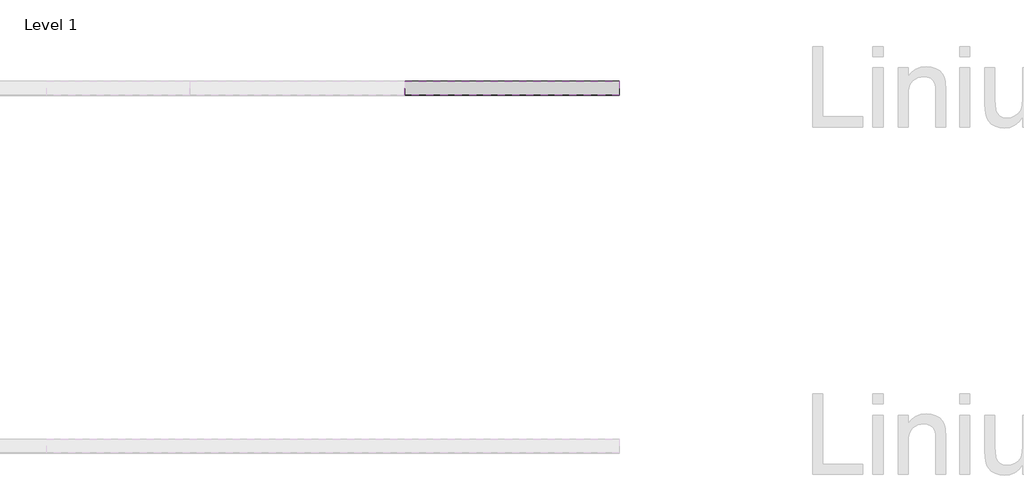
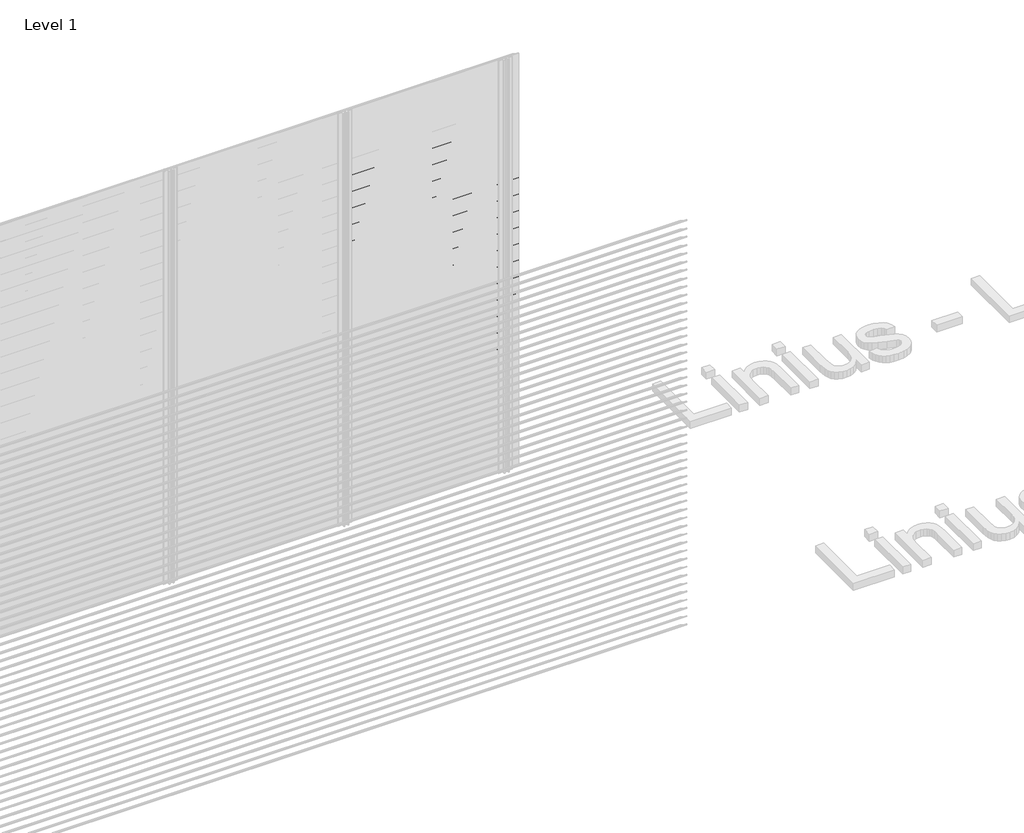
# One storey, part 10 of 153: 43 proxies.
"""IFC4 building model written with IfcOpenShell, lengths in millimetres."""

from ifc_helpers import new_model, si_unit, frame, origin, place, context, project, spatial, polyline, outline, extrude, element, save

model = new_model("IFC4")

# Units and contexts
model_context = context("Model", 3, world=origin())
ifc_project = project(units=[si_unit("LENGTHUNIT", "METRE", prefix="MILLI")], contexts=[model_context])

# Site, building, storey
site = spatial("IfcSite", under=ifc_project)
building = spatial("IfcBuilding", under=site)
storey = spatial("IfcBuildingStorey", under=building, Name="Level 1", Elevation=0.0)

# Proxies
placement = place(None, origin())
element("IfcBuildingElementProxy", 1, Name="Wall Sweeps", at=placement, inside=storey, context=model_context, shape_type="SweptSolid", body=[
    extrude(outline(polyline([(7065.0270068, 2526.0), (7065.0270068, 2520.0), (7063.7770068, 2520.7216933), (7063.7770068, 2525.2538091), (6987.0270068, 2573.9915103), (6987.0270068, 2580.0), (6988.2770068, 2580.0), (6988.2770068, 2574.7377012), (7065.0270068, 2526.0)])), frame((5266.6208095, 0.0, 0.0), z_axis=(1.0, 0.0, 0.0), x_axis=(0.0, 1.0, 0.0)), (0.0, 0.0, 1.0), 1200.0000002),
])
element("IfcBuildingElementProxy", 2, Name="Wall Sweeps", at=placement, inside=storey, context=model_context, shape_type="SweptSolid", body=[
    extrude(outline(polyline([(7065.0270068, 2466.0), (7065.0270068, 2460.0), (7063.7770068, 2460.7216933), (7063.7770068, 2465.2538091), (6987.0270068, 2513.9915103), (6987.0270068, 2520.0), (6988.2770068, 2520.0), (6988.2770068, 2514.7377012), (7065.0270068, 2466.0)])), frame((5266.6208095, 0.0, 0.0), z_axis=(1.0, 0.0, 0.0), x_axis=(0.0, 1.0, 0.0)), (0.0, 0.0, 1.0), 1200.0000002),
])
element("IfcBuildingElementProxy", 3, Name="Wall Sweeps", at=placement, inside=storey, context=model_context, shape_type="SweptSolid", body=[
    extrude(outline(polyline([(7065.0270068, 2406.0), (7065.0270068, 2400.0), (7063.7770068, 2400.7216933), (7063.7770068, 2405.2538091), (6987.0270068, 2453.9915103), (6987.0270068, 2460.0), (6988.2770068, 2460.0), (6988.2770068, 2454.7377012), (7065.0270068, 2406.0)])), frame((5266.6208095, 0.0, 0.0), z_axis=(1.0, 0.0, 0.0), x_axis=(0.0, 1.0, 0.0)), (0.0, 0.0, 1.0), 1200.0000002),
])
element("IfcBuildingElementProxy", 4, Name="Wall Sweeps", at=placement, inside=storey, context=model_context, shape_type="SweptSolid", body=[
    extrude(outline(polyline([(7065.0270068, 2346.0), (7065.0270068, 2340.0), (7063.7770068, 2340.7216933), (7063.7770068, 2345.2538091), (6987.0270068, 2393.9915103), (6987.0270068, 2400.0), (6988.2770068, 2400.0), (6988.2770068, 2394.7377012), (7065.0270068, 2346.0)])), frame((5266.6208095, 0.0, 0.0), z_axis=(1.0, 0.0, 0.0), x_axis=(0.0, 1.0, 0.0)), (0.0, 0.0, 1.0), 1200.0000002),
])
element("IfcBuildingElementProxy", 5, Name="Wall Sweeps", at=placement, inside=storey, context=model_context, shape_type="SweptSolid", body=[
    extrude(outline(polyline([(7065.0270068, 2286.0), (7065.0270068, 2280.0), (7063.7770068, 2280.7216933), (7063.7770068, 2285.2538091), (6987.0270068, 2333.9915103), (6987.0270068, 2340.0), (6988.2770068, 2340.0), (6988.2770068, 2334.7377012), (7065.0270068, 2286.0)])), frame((5266.6208095, 0.0, 0.0), z_axis=(1.0, 0.0, 0.0), x_axis=(0.0, 1.0, 0.0)), (0.0, 0.0, 1.0), 1200.0000002),
])
element("IfcBuildingElementProxy", 6, Name="Wall Sweeps", at=placement, inside=storey, context=model_context, shape_type="SweptSolid", body=[
    extrude(outline(polyline([(7065.0270068, 2226.0), (7065.0270068, 2220.0), (7063.7770068, 2220.7216933), (7063.7770068, 2225.2538091), (6987.0270068, 2273.9915103), (6987.0270068, 2280.0), (6988.2770068, 2280.0), (6988.2770068, 2274.7377012), (7065.0270068, 2226.0)])), frame((5266.6208095, 0.0, 0.0), z_axis=(1.0, 0.0, 0.0), x_axis=(0.0, 1.0, 0.0)), (0.0, 0.0, 1.0), 1200.0000002),
])
element("IfcBuildingElementProxy", 7, Name="Wall Sweeps", at=placement, inside=storey, context=model_context, shape_type="SweptSolid", body=[
    extrude(outline(polyline([(7065.0270068, 2166.0), (7065.0270068, 2160.0), (7063.7770068, 2160.7216933), (7063.7770068, 2165.2538091), (6987.0270068, 2213.9915103), (6987.0270068, 2220.0), (6988.2770068, 2220.0), (6988.2770068, 2214.7377012), (7065.0270068, 2166.0)])), frame((5266.6208095, 0.0, 0.0), z_axis=(1.0, 0.0, 0.0), x_axis=(0.0, 1.0, 0.0)), (0.0, 0.0, 1.0), 1200.0000002),
])
element("IfcBuildingElementProxy", 8, Name="Wall Sweeps", at=placement, inside=storey, context=model_context, shape_type="SweptSolid", body=[
    extrude(outline(polyline([(7065.0270068, 2106.0), (7065.0270068, 2100.0), (7063.7770068, 2100.7216933), (7063.7770068, 2105.2538091), (6987.0270068, 2153.9915103), (6987.0270068, 2160.0), (6988.2770068, 2160.0), (6988.2770068, 2154.7377012), (7065.0270068, 2106.0)])), frame((5266.6208095, 0.0, 0.0), z_axis=(1.0, 0.0, 0.0), x_axis=(0.0, 1.0, 0.0)), (0.0, 0.0, 1.0), 1200.0000002),
])
element("IfcBuildingElementProxy", 9, Name="Wall Sweeps", at=placement, inside=storey, context=model_context, shape_type="SweptSolid", body=[
    extrude(outline(polyline([(7065.0270068, 2046.0), (7065.0270068, 2040.0), (7063.7770068, 2040.7216933), (7063.7770068, 2045.2538091), (6987.0270068, 2093.9915103), (6987.0270068, 2100.0), (6988.2770068, 2100.0), (6988.2770068, 2094.7377012), (7065.0270068, 2046.0)])), frame((5266.6208095, 0.0, 0.0), z_axis=(1.0, 0.0, 0.0), x_axis=(0.0, 1.0, 0.0)), (0.0, 0.0, 1.0), 1200.0000002),
])
element("IfcBuildingElementProxy", 10, Name="Wall Sweeps", at=placement, inside=storey, context=model_context, shape_type="SweptSolid", body=[
    extrude(outline(polyline([(7065.0270068, 1986.0), (7065.0270068, 1980.0), (7063.7770068, 1980.7216933), (7063.7770068, 1985.2538091), (6987.0270068, 2033.9915103), (6987.0270068, 2040.0), (6988.2770068, 2040.0), (6988.2770068, 2034.7377012), (7065.0270068, 1986.0)])), frame((5266.6208095, 0.0, 0.0), z_axis=(1.0, 0.0, 0.0), x_axis=(0.0, 1.0, 0.0)), (0.0, 0.0, 1.0), 1200.0000002),
])
element("IfcBuildingElementProxy", 11, Name="Wall Sweeps", at=placement, inside=storey, context=model_context, shape_type="SweptSolid", body=[
    extrude(outline(polyline([(7065.0270068, 1926.0), (7065.0270068, 1920.0), (7063.7770068, 1920.7216933), (7063.7770068, 1925.2538091), (6987.0270068, 1973.9915103), (6987.0270068, 1980.0), (6988.2770068, 1980.0), (6988.2770068, 1974.7377012), (7065.0270068, 1926.0)])), frame((5266.6208095, 0.0, 0.0), z_axis=(1.0, 0.0, 0.0), x_axis=(0.0, 1.0, 0.0)), (0.0, 0.0, 1.0), 1200.0000002),
])
element("IfcBuildingElementProxy", 12, Name="Wall Sweeps", at=placement, inside=storey, context=model_context, shape_type="SweptSolid", body=[
    extrude(outline(polyline([(7065.0270068, 1866.0), (7065.0270068, 1860.0), (7063.7770068, 1860.7216933), (7063.7770068, 1865.2538091), (6987.0270068, 1913.9915103), (6987.0270068, 1920.0), (6988.2770068, 1920.0), (6988.2770068, 1914.7377012), (7065.0270068, 1866.0)])), frame((5266.6208095, 0.0, 0.0), z_axis=(1.0, 0.0, 0.0), x_axis=(0.0, 1.0, 0.0)), (0.0, 0.0, 1.0), 1200.0000002),
])
element("IfcBuildingElementProxy", 13, Name="Wall Sweeps", at=placement, inside=storey, context=model_context, shape_type="SweptSolid", body=[
    extrude(outline(polyline([(7065.0270068, 1806.0), (7065.0270068, 1800.0), (7063.7770068, 1800.7216933), (7063.7770068, 1805.2538091), (6987.0270068, 1853.9915103), (6987.0270068, 1860.0), (6988.2770068, 1860.0), (6988.2770068, 1854.7377012), (7065.0270068, 1806.0)])), frame((5266.6208095, 0.0, 0.0), z_axis=(1.0, 0.0, 0.0), x_axis=(0.0, 1.0, 0.0)), (0.0, 0.0, 1.0), 1200.0000002),
])
element("IfcBuildingElementProxy", 14, Name="Wall Sweeps", at=placement, inside=storey, context=model_context, shape_type="SweptSolid", body=[
    extrude(outline(polyline([(7065.0270068, 1746.0), (7065.0270068, 1740.0), (7063.7770068, 1740.7216933), (7063.7770068, 1745.2538091), (6987.0270068, 1793.9915103), (6987.0270068, 1800.0), (6988.2770068, 1800.0), (6988.2770068, 1794.7377012), (7065.0270068, 1746.0)])), frame((5266.6208095, 0.0, 0.0), z_axis=(1.0, 0.0, 0.0), x_axis=(0.0, 1.0, 0.0)), (0.0, 0.0, 1.0), 1200.0000002),
])
element("IfcBuildingElementProxy", 15, Name="Wall Sweeps", at=placement, inside=storey, context=model_context, shape_type="SweptSolid", body=[
    extrude(outline(polyline([(7065.0270068, 1686.0), (7065.0270068, 1680.0), (7063.7770068, 1680.7216933), (7063.7770068, 1685.2538091), (6987.0270068, 1733.9915103), (6987.0270068, 1740.0), (6988.2770068, 1740.0), (6988.2770068, 1734.7377012), (7065.0270068, 1686.0)])), frame((5266.6208095, 0.0, 0.0), z_axis=(1.0, 0.0, 0.0), x_axis=(0.0, 1.0, 0.0)), (0.0, 0.0, 1.0), 1200.0000002),
])
element("IfcBuildingElementProxy", 16, Name="Wall Sweeps", at=placement, inside=storey, context=model_context, shape_type="SweptSolid", body=[
    extrude(outline(polyline([(7065.0270068, 1626.0), (7065.0270068, 1620.0), (7063.7770068, 1620.7216933), (7063.7770068, 1625.2538091), (6987.0270068, 1673.9915103), (6987.0270068, 1680.0), (6988.2770068, 1680.0), (6988.2770068, 1674.7377012), (7065.0270068, 1626.0)])), frame((5266.6208095, 0.0, 0.0), z_axis=(1.0, 0.0, 0.0), x_axis=(0.0, 1.0, 0.0)), (0.0, 0.0, 1.0), 1200.0000002),
])
element("IfcBuildingElementProxy", 17, Name="Wall Sweeps", at=placement, inside=storey, context=model_context, shape_type="SweptSolid", body=[
    extrude(outline(polyline([(7065.0270068, 1566.0), (7065.0270068, 1560.0), (7063.7770068, 1560.7216933), (7063.7770068, 1565.2538091), (6987.0270068, 1613.9915103), (6987.0270068, 1620.0), (6988.2770068, 1620.0), (6988.2770068, 1614.7377012), (7065.0270068, 1566.0)])), frame((5266.6208095, 0.0, 0.0), z_axis=(1.0, 0.0, 0.0), x_axis=(0.0, 1.0, 0.0)), (0.0, 0.0, 1.0), 1200.0000002),
])
element("IfcBuildingElementProxy", 18, Name="Wall Sweeps", at=placement, inside=storey, context=model_context, shape_type="SweptSolid", body=[
    extrude(outline(polyline([(7065.0270068, 1506.0), (7065.0270068, 1500.0), (7063.7770068, 1500.7216933), (7063.7770068, 1505.2538091), (6987.0270068, 1553.9915103), (6987.0270068, 1560.0), (6988.2770068, 1560.0), (6988.2770068, 1554.7377012), (7065.0270068, 1506.0)])), frame((5266.6208095, 0.0, 0.0), z_axis=(1.0, 0.0, 0.0), x_axis=(0.0, 1.0, 0.0)), (0.0, 0.0, 1.0), 1200.0000002),
])
element("IfcBuildingElementProxy", 19, Name="Wall Sweeps", at=placement, inside=storey, context=model_context, shape_type="SweptSolid", body=[
    extrude(outline(polyline([(7065.0270068, 1446.0), (7065.0270068, 1440.0), (7063.7770068, 1440.7216933), (7063.7770068, 1445.2538091), (6987.0270068, 1493.9915103), (6987.0270068, 1500.0), (6988.2770068, 1500.0), (6988.2770068, 1494.7377012), (7065.0270068, 1446.0)])), frame((5266.6208095, 0.0, 0.0), z_axis=(1.0, 0.0, 0.0), x_axis=(0.0, 1.0, 0.0)), (0.0, 0.0, 1.0), 1200.0000002),
])
element("IfcBuildingElementProxy", 20, Name="Wall Sweeps", at=placement, inside=storey, context=model_context, shape_type="SweptSolid", body=[
    extrude(outline(polyline([(7065.0270068, 1386.0), (7065.0270068, 1380.0), (7063.7770068, 1380.7216933), (7063.7770068, 1385.2538091), (6987.0270068, 1433.9915103), (6987.0270068, 1440.0), (6988.2770068, 1440.0), (6988.2770068, 1434.7377012), (7065.0270068, 1386.0)])), frame((5266.6208095, 0.0, 0.0), z_axis=(1.0, 0.0, 0.0), x_axis=(0.0, 1.0, 0.0)), (0.0, 0.0, 1.0), 1200.0000002),
])
element("IfcBuildingElementProxy", 21, Name="Wall Sweeps", at=placement, inside=storey, context=model_context, shape_type="SweptSolid", body=[
    extrude(outline(polyline([(7065.0270068, 1326.0), (7065.0270068, 1320.0), (7063.7770068, 1320.7216933), (7063.7770068, 1325.2538091), (6987.0270068, 1373.9915103), (6987.0270068, 1380.0), (6988.2770068, 1380.0), (6988.2770068, 1374.7377012), (7065.0270068, 1326.0)])), frame((5266.6208095, 0.0, 0.0), z_axis=(1.0, 0.0, 0.0), x_axis=(0.0, 1.0, 0.0)), (0.0, 0.0, 1.0), 1200.0000002),
])
element("IfcBuildingElementProxy", 22, Name="Wall Sweeps", at=placement, inside=storey, context=model_context, shape_type="SweptSolid", body=[
    extrude(outline(polyline([(7065.0270068, 1266.0), (7065.0270068, 1260.0), (7063.7770068, 1260.7216933), (7063.7770068, 1265.2538091), (6987.0270068, 1313.9915103), (6987.0270068, 1320.0), (6988.2770068, 1320.0), (6988.2770068, 1314.7377012), (7065.0270068, 1266.0)])), frame((5266.6208095, 0.0, 0.0), z_axis=(1.0, 0.0, 0.0), x_axis=(0.0, 1.0, 0.0)), (0.0, 0.0, 1.0), 1200.0000002),
])
element("IfcBuildingElementProxy", 23, Name="Wall Sweeps", at=placement, inside=storey, context=model_context, shape_type="SweptSolid", body=[
    extrude(outline(polyline([(7065.0270068, 1206.0), (7065.0270068, 1200.0), (7063.7770068, 1200.7216933), (7063.7770068, 1205.2538091), (6987.0270068, 1253.9915103), (6987.0270068, 1260.0), (6988.2770068, 1260.0), (6988.2770068, 1254.7377012), (7065.0270068, 1206.0)])), frame((5266.6208095, 0.0, 0.0), z_axis=(1.0, 0.0, 0.0), x_axis=(0.0, 1.0, 0.0)), (0.0, 0.0, 1.0), 1200.0000002),
])
element("IfcBuildingElementProxy", 24, Name="Wall Sweeps", at=placement, inside=storey, context=model_context, shape_type="SweptSolid", body=[
    extrude(outline(polyline([(7065.0270068, 1146.0), (7065.0270068, 1140.0), (7063.7770068, 1140.7216933), (7063.7770068, 1145.2538091), (6987.0270068, 1193.9915103), (6987.0270068, 1200.0), (6988.2770068, 1200.0), (6988.2770068, 1194.7377012), (7065.0270068, 1146.0)])), frame((5266.6208095, 0.0, 0.0), z_axis=(1.0, 0.0, 0.0), x_axis=(0.0, 1.0, 0.0)), (0.0, 0.0, 1.0), 1200.0000002),
])
element("IfcBuildingElementProxy", 25, Name="Wall Sweeps", at=placement, inside=storey, context=model_context, shape_type="SweptSolid", body=[
    extrude(outline(polyline([(7065.0270068, 1086.0), (7065.0270068, 1080.0), (7063.7770068, 1080.7216933), (7063.7770068, 1085.2538091), (6987.0270068, 1133.9915103), (6987.0270068, 1140.0), (6988.2770068, 1140.0), (6988.2770068, 1134.7377012), (7065.0270068, 1086.0)])), frame((5266.6208095, 0.0, 0.0), z_axis=(1.0, 0.0, 0.0), x_axis=(0.0, 1.0, 0.0)), (0.0, 0.0, 1.0), 1200.0000002),
])
element("IfcBuildingElementProxy", 26, Name="Wall Sweeps", at=placement, inside=storey, context=model_context, shape_type="SweptSolid", body=[
    extrude(outline(polyline([(7065.0270068, 1026.0), (7065.0270068, 1020.0), (7063.7770068, 1020.7216933), (7063.7770068, 1025.2538091), (6987.0270068, 1073.9915103), (6987.0270068, 1080.0), (6988.2770068, 1080.0), (6988.2770068, 1074.7377012), (7065.0270068, 1026.0)])), frame((5266.6208095, 0.0, 0.0), z_axis=(1.0, 0.0, 0.0), x_axis=(0.0, 1.0, 0.0)), (0.0, 0.0, 1.0), 1200.0000002),
])
element("IfcBuildingElementProxy", 27, Name="Wall Sweeps", at=placement, inside=storey, context=model_context, shape_type="SweptSolid", body=[
    extrude(outline(polyline([(7065.0270068, 966.0), (7065.0270068, 960.0), (7063.7770068, 960.7216933), (7063.7770068, 965.2538091), (6987.0270068, 1013.9915103), (6987.0270068, 1020.0), (6988.2770068, 1020.0), (6988.2770068, 1014.7377012), (7065.0270068, 966.0)])), frame((5266.6208095, 0.0, 0.0), z_axis=(1.0, 0.0, 0.0), x_axis=(0.0, 1.0, 0.0)), (0.0, 0.0, 1.0), 1200.0000002),
])
element("IfcBuildingElementProxy", 28, Name="Wall Sweeps", at=placement, inside=storey, context=model_context, shape_type="SweptSolid", body=[
    extrude(outline(polyline([(7065.0270068, 906.0), (7065.0270068, 900.0), (7063.7770068, 900.7216933), (7063.7770068, 905.2538091), (6987.0270068, 953.9915103), (6987.0270068, 960.0), (6988.2770068, 960.0), (6988.2770068, 954.7377012), (7065.0270068, 906.0)])), frame((5266.6208095, 0.0, 0.0), z_axis=(1.0, 0.0, 0.0), x_axis=(0.0, 1.0, 0.0)), (0.0, 0.0, 1.0), 1200.0000002),
])
element("IfcBuildingElementProxy", 29, Name="Wall Sweeps", at=placement, inside=storey, context=model_context, shape_type="SweptSolid", body=[
    extrude(outline(polyline([(7065.0270068, 846.0), (7065.0270068, 840.0), (7063.7770068, 840.7216933), (7063.7770068, 845.2538091), (6987.0270068, 893.9915103), (6987.0270068, 900.0), (6988.2770068, 900.0), (6988.2770068, 894.7377012), (7065.0270068, 846.0)])), frame((5266.6208095, 0.0, 0.0), z_axis=(1.0, 0.0, 0.0), x_axis=(0.0, 1.0, 0.0)), (0.0, 0.0, 1.0), 1200.0000002),
])
element("IfcBuildingElementProxy", 30, Name="Wall Sweeps", at=placement, inside=storey, context=model_context, shape_type="SweptSolid", body=[
    extrude(outline(polyline([(7065.0270068, 786.0), (7065.0270068, 780.0), (7063.7770068, 780.7216933), (7063.7770068, 785.2538091), (6987.0270068, 833.9915103), (6987.0270068, 840.0), (6988.2770068, 840.0), (6988.2770068, 834.7377012), (7065.0270068, 786.0)])), frame((5266.6208095, 0.0, 0.0), z_axis=(1.0, 0.0, 0.0), x_axis=(0.0, 1.0, 0.0)), (0.0, 0.0, 1.0), 1200.0000002),
])
element("IfcBuildingElementProxy", 31, Name="Wall Sweeps", at=placement, inside=storey, context=model_context, shape_type="SweptSolid", body=[
    extrude(outline(polyline([(7065.0270068, 726.0), (7065.0270068, 720.0), (7063.7770068, 720.7216933), (7063.7770068, 725.2538091), (6987.0270068, 773.9915103), (6987.0270068, 780.0), (6988.2770068, 780.0), (6988.2770068, 774.7377012), (7065.0270068, 726.0)])), frame((5266.6208095, 0.0, 0.0), z_axis=(1.0, 0.0, 0.0), x_axis=(0.0, 1.0, 0.0)), (0.0, 0.0, 1.0), 1200.0000002),
])
element("IfcBuildingElementProxy", 32, Name="Wall Sweeps", at=placement, inside=storey, context=model_context, shape_type="SweptSolid", body=[
    extrude(outline(polyline([(7065.0270068, 666.0), (7065.0270068, 660.0), (7063.7770068, 660.7216933), (7063.7770068, 665.2538091), (6987.0270068, 713.9915103), (6987.0270068, 720.0), (6988.2770068, 720.0), (6988.2770068, 714.7377012), (7065.0270068, 666.0)])), frame((5266.6208095, 0.0, 0.0), z_axis=(1.0, 0.0, 0.0), x_axis=(0.0, 1.0, 0.0)), (0.0, 0.0, 1.0), 1200.0000002),
])
element("IfcBuildingElementProxy", 33, Name="Wall Sweeps", at=placement, inside=storey, context=model_context, shape_type="SweptSolid", body=[
    extrude(outline(polyline([(7065.0270068, 606.0), (7065.0270068, 600.0), (7063.7770068, 600.7216933), (7063.7770068, 605.2538091), (6987.0270068, 653.9915103), (6987.0270068, 660.0), (6988.2770068, 660.0), (6988.2770068, 654.7377012), (7065.0270068, 606.0)])), frame((5266.6208095, 0.0, 0.0), z_axis=(1.0, 0.0, 0.0), x_axis=(0.0, 1.0, 0.0)), (0.0, 0.0, 1.0), 1200.0000002),
])
element("IfcBuildingElementProxy", 34, Name="Wall Sweeps", at=placement, inside=storey, context=model_context, shape_type="SweptSolid", body=[
    extrude(outline(polyline([(7065.0270068, 546.0), (7065.0270068, 540.0), (7063.7770068, 540.7216933), (7063.7770068, 545.2538091), (6987.0270068, 593.9915103), (6987.0270068, 600.0), (6988.2770068, 600.0), (6988.2770068, 594.7377012), (7065.0270068, 546.0)])), frame((5266.6208095, 0.0, 0.0), z_axis=(1.0, 0.0, 0.0), x_axis=(0.0, 1.0, 0.0)), (0.0, 0.0, 1.0), 1200.0000002),
])
element("IfcBuildingElementProxy", 35, Name="Wall Sweeps", at=placement, inside=storey, context=model_context, shape_type="SweptSolid", body=[
    extrude(outline(polyline([(7065.0270068, 486.0), (7065.0270068, 480.0), (7063.7770068, 480.7216933), (7063.7770068, 485.2538091), (6987.0270068, 533.9915103), (6987.0270068, 540.0), (6988.2770068, 540.0), (6988.2770068, 534.7377012), (7065.0270068, 486.0)])), frame((5266.6208095, 0.0, 0.0), z_axis=(1.0, 0.0, 0.0), x_axis=(0.0, 1.0, 0.0)), (0.0, 0.0, 1.0), 1200.0000002),
])
element("IfcBuildingElementProxy", 36, Name="Wall Sweeps", at=placement, inside=storey, context=model_context, shape_type="SweptSolid", body=[
    extrude(outline(polyline([(7065.0270068, 426.0), (7065.0270068, 420.0), (7063.7770068, 420.7216933), (7063.7770068, 425.2538091), (6987.0270068, 473.9915103), (6987.0270068, 480.0), (6988.2770068, 480.0), (6988.2770068, 474.7377012), (7065.0270068, 426.0)])), frame((5266.6208095, 0.0, 0.0), z_axis=(1.0, 0.0, 0.0), x_axis=(0.0, 1.0, 0.0)), (0.0, 0.0, 1.0), 1200.0000002),
])
element("IfcBuildingElementProxy", 37, Name="Wall Sweeps", at=placement, inside=storey, context=model_context, shape_type="SweptSolid", body=[
    extrude(outline(polyline([(7065.0270068, 366.0), (7065.0270068, 360.0), (7063.7770068, 360.7216933), (7063.7770068, 365.2538091), (6987.0270068, 413.9915103), (6987.0270068, 420.0), (6988.2770068, 420.0), (6988.2770068, 414.7377012), (7065.0270068, 366.0)])), frame((5266.6208095, 0.0, 0.0), z_axis=(1.0, 0.0, 0.0), x_axis=(0.0, 1.0, 0.0)), (0.0, 0.0, 1.0), 1200.0000002),
])
element("IfcBuildingElementProxy", 38, Name="Wall Sweeps", at=placement, inside=storey, context=model_context, shape_type="SweptSolid", body=[
    extrude(outline(polyline([(7065.0270068, 306.0), (7065.0270068, 300.0), (7063.7770068, 300.7216933), (7063.7770068, 305.2538091), (6987.0270068, 353.9915103), (6987.0270068, 360.0), (6988.2770068, 360.0), (6988.2770068, 354.7377012), (7065.0270068, 306.0)])), frame((5266.6208095, 0.0, 0.0), z_axis=(1.0, 0.0, 0.0), x_axis=(0.0, 1.0, 0.0)), (0.0, 0.0, 1.0), 1200.0000002),
])
element("IfcBuildingElementProxy", 39, Name="Wall Sweeps", at=placement, inside=storey, context=model_context, shape_type="SweptSolid", body=[
    extrude(outline(polyline([(7065.0270068, 246.0), (7065.0270068, 240.0), (7063.7770068, 240.7216933), (7063.7770068, 245.2538091), (6987.0270068, 293.9915103), (6987.0270068, 300.0), (6988.2770068, 300.0), (6988.2770068, 294.7377012), (7065.0270068, 246.0)])), frame((5266.6208095, 0.0, 0.0), z_axis=(1.0, 0.0, 0.0), x_axis=(0.0, 1.0, 0.0)), (0.0, 0.0, 1.0), 1200.0000002),
])
element("IfcBuildingElementProxy", 40, Name="Wall Sweeps", at=placement, inside=storey, context=model_context, shape_type="SweptSolid", body=[
    extrude(outline(polyline([(7065.0270068, 186.0), (7065.0270068, 180.0), (7063.7770068, 180.7216933), (7063.7770068, 185.2538091), (6987.0270068, 233.9915103), (6987.0270068, 240.0), (6988.2770068, 240.0), (6988.2770068, 234.7377012), (7065.0270068, 186.0)])), frame((5266.6208095, 0.0, 0.0), z_axis=(1.0, 0.0, 0.0), x_axis=(0.0, 1.0, 0.0)), (0.0, 0.0, 1.0), 1200.0000002),
])
element("IfcBuildingElementProxy", 41, Name="Wall Sweeps", at=placement, inside=storey, context=model_context, shape_type="SweptSolid", body=[
    extrude(outline(polyline([(7065.0270068, 126.0), (7065.0270068, 120.0), (7063.7770068, 120.7216933), (7063.7770068, 125.2538091), (6987.0270068, 173.9915103), (6987.0270068, 180.0), (6988.2770068, 180.0), (6988.2770068, 174.7377012), (7065.0270068, 126.0)])), frame((5266.6208095, 0.0, 0.0), z_axis=(1.0, 0.0, 0.0), x_axis=(0.0, 1.0, 0.0)), (0.0, 0.0, 1.0), 1200.0000002),
])
element("IfcBuildingElementProxy", 42, Name="Wall Sweeps", at=placement, inside=storey, context=model_context, shape_type="SweptSolid", body=[
    extrude(outline(polyline([(7065.0270068, 66.0), (7065.0270068, 60.0), (7063.7770068, 60.7216933), (7063.7770068, 65.2538091), (6987.0270068, 113.9915103), (6987.0270068, 120.0), (6988.2770068, 120.0), (6988.2770068, 114.7377012), (7065.0270068, 66.0)])), frame((5266.6208095, 0.0, 0.0), z_axis=(1.0, 0.0, 0.0), x_axis=(0.0, 1.0, 0.0)), (0.0, 0.0, 1.0), 1200.0000002),
])
element("IfcBuildingElementProxy", 43, Name="Wall Sweeps", at=placement, inside=storey, context=model_context, shape_type="SweptSolid", body=[
    extrude(outline(polyline([(7065.0270068, 6.0), (7065.0270068, 0.0), (7063.7770068, 0.7216933), (7063.7770068, 5.2538091), (6987.0270068, 53.9915103), (6987.0270068, 60.0), (6988.2770068, 60.0), (6988.2770068, 54.7377012), (7065.0270068, 6.0)])), frame((5266.6208095, 0.0, 0.0), z_axis=(1.0, 0.0, 0.0), x_axis=(0.0, 1.0, 0.0)), (0.0, 0.0, 1.0), 1200.0000002),
])

save(model, "model.ifc")
